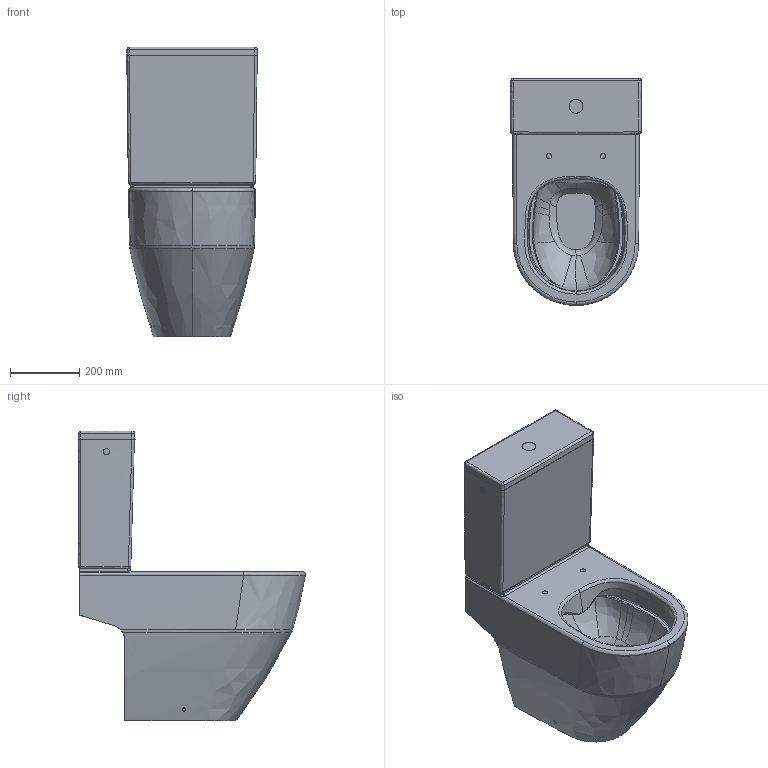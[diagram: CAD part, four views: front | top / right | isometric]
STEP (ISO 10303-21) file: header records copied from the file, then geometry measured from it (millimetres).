
FILE_DESCRIPTION(/* description */ (''),/* implementation_level */ '2;1');
FILE_NAME(/* name */ '825964_82995x_BIM_ASSY.stp',/* time_stamp */ '2024-11-13T11:34:38+01:00',/* author */ (''),/* organization */ (''),/* preprocessor_version */ 'ST-DEVELOPER v16.7',/* originating_system */ 'SIEMENS PLM Software NX 1946',/* authorisation */ '');
FILE_SCHEMA (('AUTOMOTIVE_DESIGN { 1 0 10303 214 3 1 1 1 }'));
Products named in the file (1): kreo2E58594Dvvx1
Bounding box: 375.81 x 652.78 x 835 mm (x, y, z)
Volume: 75337272.4 mm3; surface area: 1650662.6 mm2
Topology: 1 solids, 1 shells, 292 faces, 704 edges, 420 vertices
Faces by surface type: bspline 145, plane 67, cylinder 55, extrusion 12, cone 5, sphere 4, torus 4
Full cylindrical faces by diameter (mm): 15 x2, 45.65 x1, 55.411 x1, 62.999 x1, 85.151 x1, 102 x1, 116 x1
Entity records: 37602 total; most frequent: CARTESIAN_POINT 32049, ORIENTED_EDGE 1358, DIRECTION 741, EDGE_CURVE 679, VERTEX_POINT 417, B_SPLINE_CURVE_WITH_KNOTS 365, EDGE_LOOP 320, ADVANCED_FACE 292
